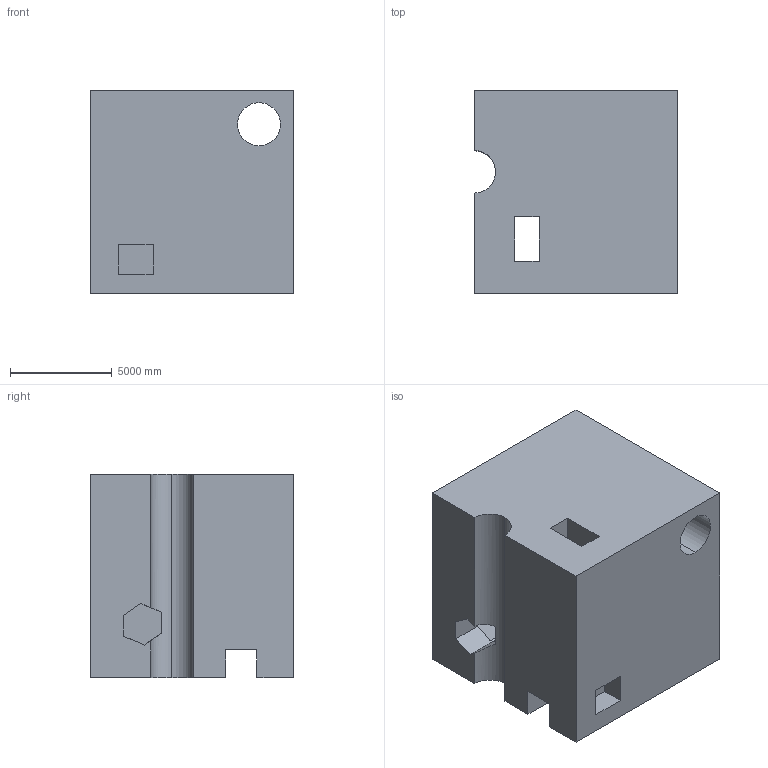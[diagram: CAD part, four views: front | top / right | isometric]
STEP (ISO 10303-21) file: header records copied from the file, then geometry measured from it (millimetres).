
FILE_DESCRIPTION (( 'STEP AP203' ), '1' );
FILE_NAME ('1901.STEP', '2022-08-26T13:35:19', ( 'user' ), ( '' ), 'SwSTEP 2.0', 'SolidWorks 2021', '' );
FILE_SCHEMA (( 'CONFIG_CONTROL_DESIGN' ));
Length unit declared in the file: centimetre
Products named in the file (1): 1901
Bounding box: 10000 x 10000 x 10000 mm (x, y, z)
Volume: 847610417966.6 mm3; surface area: 830091812.6 mm2
Topology: 1 solids, 1 shells, 56 faces, 168 edges, 112 vertices
Faces by surface type: plane 52, cylinder 4
Entity records: 1953 total; most frequent: CARTESIAN_POINT 343, ORIENTED_EDGE 336, DIRECTION 288, EDGE_CURVE 168, VECTOR 158, LINE 158, VERTEX_POINT 112, AXIS2_PLACEMENT_3D 65
